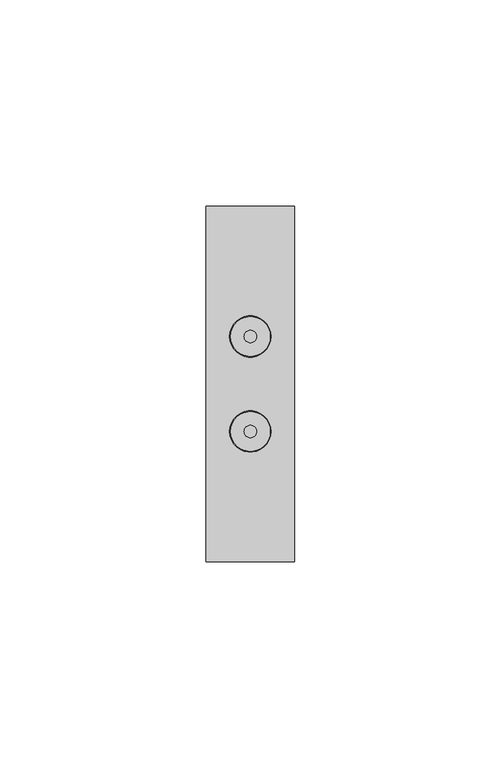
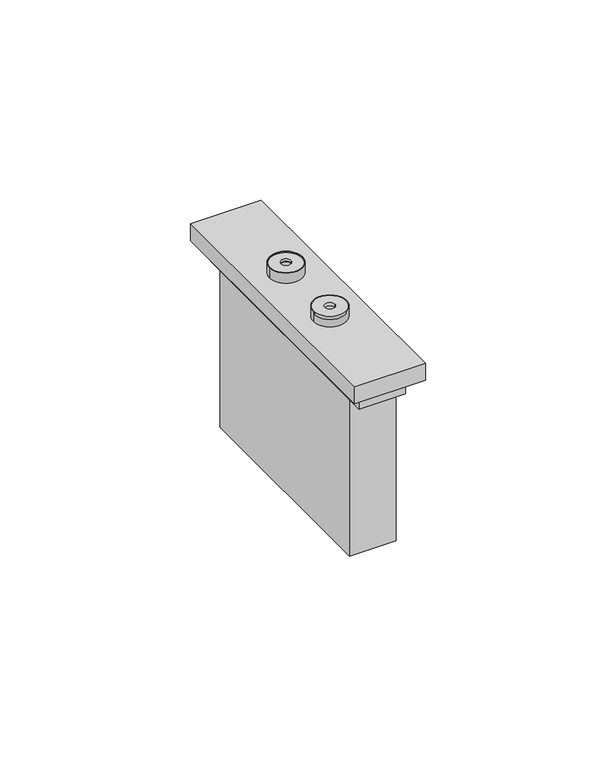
"""IFC4 building model written with IfcOpenShell, lengths in millimetres: proxy geometry, BT_LN-ConnettoriAudioVideo_ModuloDoppioRCA : ModuloDoppioRCA - Art. KW4269R - 1M - Cover Bianco."""

import ifcopenshell
import ifcopenshell.guid

model = None  # the IFC model being written
_history = None  # IfcOwnerHistory: only IFC2X3 demands one
_inside = {}  # id of a spatial element -> (the spatial element, [elements in it])
_under = {}  # id of a project, library or spatial element -> (it, [spatial elements below it])
_declared = {}  # id of a project -> (the project, [libraries it declares])
_typed = {}  # id of a type object -> (the type object, [elements of that type])
_made_of = {}  # id of a material, layer set ... -> (it, [elements and type objects made of it])


def new_model(schema):
    """Start an empty IFC model of exactly this schema.

    Asked for "IFC4X3", IfcOpenShell would pick the latest addendum, in which some entities
    have other attributes; the version numbers below select the first issue.
    IFC2X3 requires an IfcOwnerHistory on every rooted entity: one is made here for all.
    """
    global model, _history
    if schema == "IFC4X3":
        model = ifcopenshell.file(schema_version=(4, 3, 0, 0))
    else:
        model = ifcopenshell.file(schema=schema)
    _inside.clear()
    _under.clear()
    _declared.clear()
    _typed.clear()
    _made_of.clear()
    _history = None
    if model.schema == "IFC2X3":
        org = make("IfcOrganization", Name="unknown")
        user = make(
            "IfcPersonAndOrganization",
            ThePerson=make("IfcPerson", FamilyName="unknown"),
            TheOrganization=org,
        )
        app = make(
            "IfcApplication",
            ApplicationDeveloper=org,
            Version="unknown",
            ApplicationFullName="unknown",
            ApplicationIdentifier="unknown",
        )
        _history = make(
            "IfcOwnerHistory",
            OwningUser=user,
            OwningApplication=app,
            ChangeAction="ADDED",
            CreationDate=0,
        )
    return model


def make(cls, **values):
    """One entity of the class cls with the attributes given. An attribute that is None is left unset."""
    return model.create_entity(
        cls, **{name: value for name, value in values.items() if value is not None}
    )


def rooted(cls, **values):
    """An entity with a GlobalId (a new one), such as an element, a storey or a relation."""
    return make(cls, GlobalId=ifcopenshell.guid.new(), OwnerHistory=_history, **values)


def si_unit(unit_type, name, prefix=None):
    """IfcSIUnit, for example si_unit("LENGTHUNIT", "METRE", prefix="MILLI")."""
    return make("IfcSIUnit", UnitType=unit_type, Prefix=prefix, Name=name)


def assignment(units):
    """IfcUnitAssignment: the units of a project."""
    return None if units is None else make("IfcUnitAssignment", Units=units)


def point(xyz):
    """IfcCartesianPoint."""
    return None if xyz is None else make("IfcCartesianPoint", Coordinates=xyz)


def direction(xyz):
    """IfcDirection."""
    return None if xyz is None else make("IfcDirection", DirectionRatios=xyz)


def frame(location, z_axis=None, x_axis=None):
    """IfcAxis2Placement3D, a coordinate frame: its origin and axes. An axis left out is left unset."""
    return make(
        "IfcAxis2Placement3D",
        Location=point(location),
        Axis=direction(z_axis),
        RefDirection=direction(x_axis),
    )


def frame_2d(location, x_axis=None):
    """IfcAxis2Placement2D, a coordinate frame in the plane: its origin and x axis."""
    return make(
        "IfcAxis2Placement2D", Location=point(location), RefDirection=direction(x_axis)
    )


def origin():
    """The frame at (0, 0, 0) with its axes left unset."""
    return frame((0.0, 0.0, 0.0))


def origin_with_axes():
    """The frame at (0, 0, 0) with the z axis (0, 0, 1) and the x axis (1, 0, 0) written out."""
    return frame((0.0, 0.0, 0.0), z_axis=(0.0, 0.0, 1.0), x_axis=(1.0, 0.0, 0.0))


def place(relative_to, where):
    """IfcLocalPlacement: puts the frame where relative to a parent placement (None: the world)."""
    return make(
        "IfcLocalPlacement", PlacementRelTo=relative_to, RelativePlacement=where
    )


def context(
    kind, dimensions, precision=None, world=None, true_north=None, identifier=None
):
    """IfcGeometricRepresentationContext, for example the 3D "Model" context."""
    return make(
        "IfcGeometricRepresentationContext",
        ContextIdentifier=identifier,
        ContextType=kind,
        CoordinateSpaceDimension=dimensions,
        Precision=precision,
        WorldCoordinateSystem=world,
        TrueNorth=true_north,
    )


def project(units=None, contexts=None):
    """IfcProject with its units and contexts."""
    return rooted(
        "IfcProject",
        Name="project",
        RepresentationContexts=contexts,
        UnitsInContext=assignment(units),
    )


def spatial(cls, under=None, at=None, **own):
    """A site, building, storey or space (cls), placed at a placement, below another one or the project."""
    s = rooted(cls, ObjectPlacement=at, **own)
    if under is not None:
        _under.setdefault(under.id(), (under, []))[1].append(s)
    return s


def polyline(points):
    """IfcPolyline through the points."""
    return make("IfcPolyline", Points=[point(p) for p in points])


def circle_curve(where, radius):
    """IfcCircle in the frame where."""
    return make("IfcCircle", Position=where, Radius=radius)


def trimmed(basis, trim1, trim2, sense, master):
    """IfcTrimmedCurve: the piece of a basis curve between two trims."""
    return make(
        "IfcTrimmedCurve",
        BasisCurve=basis,
        Trim1=trim1,
        Trim2=trim2,
        SenseAgreement=sense,
        MasterRepresentation=master,
    )


def segment(curve, same_sense, transition):
    """IfcCompositeCurveSegment."""
    return make(
        "IfcCompositeCurveSegment",
        Transition=transition,
        SameSense=same_sense,
        ParentCurve=curve,
    )


def composite_curve(segments, self_intersect=None):
    """IfcCompositeCurve: segments joined end to end."""
    return make("IfcCompositeCurve", Segments=segments, SelfIntersect=self_intersect)


def outline(outer, holes=None, kind="AREA"):
    """IfcArbitraryClosedProfileDef: a profile drawn as a closed curve; with holes, ...WithVoids."""
    if holes is None:
        return make("IfcArbitraryClosedProfileDef", ProfileType=kind, OuterCurve=outer)
    return make(
        "IfcArbitraryProfileDefWithVoids",
        ProfileType=kind,
        OuterCurve=outer,
        InnerCurves=holes,
    )


def extrude(swept, where, along, depth):
    """IfcExtrudedAreaSolid: the profile swept, set in the frame where, extruded along a direction by depth."""
    return make(
        "IfcExtrudedAreaSolid",
        SweptArea=swept,
        Position=where,
        ExtrudedDirection=direction(along),
        Depth=depth,
    )


def shape(context_of_items, identifier, shape_type, items):
    """IfcShapeRepresentation: the items that make up one representation, for example the "Body"."""
    return make(
        "IfcShapeRepresentation",
        ContextOfItems=context_of_items,
        RepresentationIdentifier=identifier,
        RepresentationType=shape_type,
        Items=items,
    )


def source(mapping_origin, context_of_items, identifier, shape_type, items):
    """IfcRepresentationMap: a shape defined once, which mapped items show again and again."""
    return make(
        "IfcRepresentationMap",
        MappingOrigin=mapping_origin,
        MappedRepresentation=shape(context_of_items, identifier, shape_type, items),
    )


def transform(
    local_origin,
    x_axis=None,
    y_axis=None,
    z_axis=None,
    scale=None,
    scale2=None,
    scale3=None,
    uniform=True,
):
    """IfcCartesianTransformationOperator3D, or its non-uniform kind. x_axis, y_axis, z_axis: its Axis1, 2, 3."""
    if uniform:
        return make(
            "IfcCartesianTransformationOperator3D",
            Axis1=direction(x_axis),
            Axis2=direction(y_axis),
            LocalOrigin=point(local_origin),
            Scale=scale,
            Axis3=direction(z_axis),
        )
    return make(
        "IfcCartesianTransformationOperator3DnonUniform",
        Axis1=direction(x_axis),
        Axis2=direction(y_axis),
        LocalOrigin=point(local_origin),
        Scale=scale,
        Axis3=direction(z_axis),
        Scale2=scale2,
        Scale3=scale3,
    )


def mapped(mapping_source, mapping_target):
    """IfcMappedItem: shows the shape of a source again, moved by a transform."""
    return make(
        "IfcMappedItem", MappingSource=mapping_source, MappingTarget=mapping_target
    )


def made_of(thing, what):
    """Note that an element or type object is made of a material, layer set ...; save() writes the relation."""
    if what is not None:
        _made_of.setdefault(what.id(), (what, []))[1].append(thing)
    return thing


def element(
    cls,
    number,
    at=None,
    inside=None,
    cuts=None,
    type_object=None,
    material=None,
    context=None,
    identifier="Body",
    shape_type=None,
    held_by="IfcProductDefinitionShape",
    body=None,
    shapes=None,
    **own,
):
    """One element of the class cls, such as IfcWall. Its Tag is "e" and its number.

    at: its placement. inside: the storey or other place that contains it. cuts: it is an
    opening in that element (IfcRelVoidsElement). A single representation is given by context,
    identifier, shape_type and body (its items); several are given by shapes. held_by: the class
    of the entity that holds the representations. save() writes the other relations.
    """
    e = rooted(cls, Tag="e%d" % number, ObjectPlacement=at, **own)
    if body is not None:
        shapes = [shape(context, identifier, shape_type, body)]
    if shapes is not None:
        e.Representation = make(held_by, Representations=shapes)
    if inside is not None:
        _inside.setdefault(inside.id(), (inside, []))[1].append(e)
    if cuts is not None:
        rooted(
            "IfcRelVoidsElement", RelatingBuildingElement=cuts, RelatedOpeningElement=e
        )
    if type_object is not None:
        _typed.setdefault(type_object.id(), (type_object, []))[1].append(e)
    return made_of(e, material)


def aggregate(whole, parts):
    """IfcRelAggregates: a whole, such as a stair, and the parts it consists of."""
    return rooted("IfcRelAggregates", RelatingObject=whole, RelatedObjects=parts)


def save(model, path):
    """Write the relations noted so far, then the file.

    IfcRelAggregates (storeys below a building ...), IfcRelContainedInSpatialStructure (elements
    in a storey), IfcRelDefinesByType, IfcRelAssociatesMaterial and IfcRelDeclares: one each for
    every whole, place, type object, material and project.
    """
    for whole, parts in _under.values():
        aggregate(whole, parts)
    for where, things in _inside.values():
        rooted(
            "IfcRelContainedInSpatialStructure",
            RelatedElements=things,
            RelatingStructure=where,
        )
    for kind, things in _typed.values():
        rooted("IfcRelDefinesByType", RelatedObjects=things, RelatingType=kind)
    for what, things in _made_of.values():
        rooted("IfcRelAssociatesMaterial", RelatedObjects=things, RelatingMaterial=what)
    for by, libraries in _declared.values():
        rooted("IfcRelDeclares", RelatingContext=by, RelatedDefinitions=libraries)
    model.write(path)


def plane_surface(at):
    """IfcPlane: the flat surface through the origin of the frame at, square to its z axis."""
    return make("IfcPlane", Position=at)


def cylinder_surface(at, radius):
    """IfcCylindricalSurface: all points at the distance radius from the z axis of the frame at."""
    return make("IfcCylindricalSurface", Position=at, Radius=radius)


def revolved_surface(curve, axis_point, axis_direction):
    """IfcSurfaceOfRevolution: the curve turned about the line through axis_point along axis_direction."""
    return make(
        "IfcSurfaceOfRevolution",
        SweptCurve=make("IfcArbitraryOpenProfileDef", ProfileType="CURVE", Curve=curve),
        AxisPosition=make("IfcAxis1Placement", Location=point(axis_point), Axis=direction(axis_direction)),
    )


def advanced_brep(points, edges, surfaces, faces):
    """IfcAdvancedBrep: a solid bounded by faces that lie on surfaces and meet in shared edges.

    An edge is (start, end): straight between two places in points (the first is 0);
    or (start, end, curve); or (start, end, curve, False) where it runs against its curve.
    A face is (place in surfaces, loops), or (place, loops, False) where it looks against
    its surface's normal. A loop lists edges by number (the first is 1), with a minus sign
    where the edge is run from its end to its start. The first loop is the outer one.
    """
    corners = [point(p) for p in points]
    vertices = [make("IfcVertexPoint", VertexGeometry=c) for c in corners]
    made = []
    for start, end, *more in edges:
        made.append(
            make(
                "IfcEdgeCurve",
                EdgeStart=vertices[start],
                EdgeEnd=vertices[end],
                EdgeGeometry=more[0] if more else make("IfcPolyline", Points=[corners[start], corners[end]]),
                SameSense=more[1] if len(more) > 1 else True,
            )
        )
    hull = []
    for where, loops, *sense in faces:
        bounds = []
        for j, loop in enumerate(loops):
            ring = [make("IfcOrientedEdge", EdgeElement=made[abs(k) - 1], Orientation=k > 0) for k in loop]
            bounds.append(
                make(
                    "IfcFaceOuterBound" if j == 0 else "IfcFaceBound",
                    Bound=make("IfcEdgeLoop", EdgeList=ring),
                    Orientation=True,
                )
            )
        hull.append(make("IfcAdvancedFace", Bounds=bounds, FaceSurface=surfaces[where], SameSense=sense[0] if sense else True))
    return make("IfcAdvancedBrep", Outer=make("IfcClosedShell", CfsFaces=hull))


def communication_devices_85c52ba2(model_context):
    return source(origin(), model_context, "Body", "SolidModel", [
        extrude(outline(polyline([(-7.0, 39.0), (7.0, 39.0), (7.0, -39.0), (-7.0, -39.0), (-7.0, 39.0)]), holes=[composite_curve([segment(trimmed(circle_curve(frame_2d((0.0, 11.5)), 5.0), [point((-5.0, 11.5))], [point((5.0, 11.5))], True, "CARTESIAN"), True, "CONTINUOUS"), segment(trimmed(circle_curve(frame_2d((0.0, 11.5)), 5.0), [point((5.0, 11.5))], [point((-5.0, 11.5))], True, "CARTESIAN"), True, "CONTINUOUS")], self_intersect=False), composite_curve([segment(trimmed(circle_curve(frame_2d((0.0, -11.5)), 5.0), [point((-5.0, -11.5))], [point((5.0, -11.5))], True, "CARTESIAN"), True, "CONTINUOUS"), segment(trimmed(circle_curve(frame_2d((0.0, -11.5)), 5.0), [point((5.0, -11.5))], [point((-5.0, -11.5))], True, "CARTESIAN"), True, "CONTINUOUS")], self_intersect=False)]), frame((0.0, 0.0, 50.0), z_axis=(0.0, 0.0, 1.0), x_axis=(1.0, 0.0, 0.0)), (0.0, 0.0, 1.0), 5.5),
        extrude(outline(polyline([(-7.0, 34.0), (7.0, 34.0), (7.0, -34.0), (-7.0, -34.0), (-7.0, 34.0)])), origin_with_axes(), (0.0, 0.0, 1.0), 50.0),
        extrude(outline(composite_curve([segment(trimmed(circle_curve(frame_2d((0.0, -11.5)), 4.8), [point((4.8, -11.5))], [point((-4.8, -11.5))], False, "CARTESIAN"), True, "CONTINUOUS"), segment(trimmed(circle_curve(frame_2d((0.0, -11.5)), 4.8), [point((-4.8, -11.5))], [point((4.8, -11.5))], False, "CARTESIAN"), True, "CONTINUOUS")], self_intersect=False), holes=[composite_curve([segment(trimmed(circle_curve(frame_2d((0.0, -11.5)), 1.5), [point((1.5, -11.5))], [point((-1.5, -11.5))], True, "CARTESIAN"), True, "CONTINUOUS"), segment(trimmed(circle_curve(frame_2d((0.0, -11.5)), 1.5), [point((-1.5, -11.5))], [point((1.5, -11.5))], True, "CARTESIAN"), True, "CONTINUOUS")], self_intersect=False)]), frame((0.0, 0.0, 63.0), z_axis=(0.0, 0.0, 1.0), x_axis=(1.0, 0.0, 0.0)), (0.0, 0.0, 1.0), 1.0),
        advanced_brep(
        [(5.0, 11.5, 64.0), (-5.0, 11.5, 64.0), (-4.8, 11.5, 64.0), (4.8, 11.5, 64.0), (5.0, 11.5, 50.0), (-5.0, 11.5, 50.0), (1.5, 11.5, 50.0), (-1.5, 11.5, 50.0), (-1.5, 11.5, 63.0), (1.5, 11.5, 63.0), (4.8, 11.5, 63.0), (-4.8, 11.5, 63.0)],
        [
            (0, 1, circle_curve(frame((0.0, 11.5, 64.0), z_axis=(0.0, 0.0, 1.0), x_axis=(-1.0, 0.0, 0.0)), 5.0)),
            (1, 0, circle_curve(frame((0.0, 11.5, 64.0), z_axis=(0.0, 0.0, 1.0), x_axis=(-1.0, 0.0, 0.0)), 5.0)),
            (2, 3, circle_curve(frame((0.0, 11.5, 64.0), z_axis=(0.0, 0.0, -1.0), x_axis=(-1.0, 0.0, 0.0)), 4.8)),
            (3, 2, circle_curve(frame((0.0, 11.5, 64.0), z_axis=(0.0, 0.0, -1.0), x_axis=(-1.0, 0.0, 0.0)), 4.8)),
            (4, 5, circle_curve(frame((0.0, 11.5, 50.0), z_axis=(0.0, 0.0, -1.0), x_axis=(-1.0, 0.0, 0.0)), 5.0)),
            (5, 4, circle_curve(frame((0.0, 11.5, 50.0), z_axis=(0.0, 0.0, -1.0), x_axis=(-1.0, 0.0, 0.0)), 5.0)),
            (6, 7, circle_curve(frame((0.0, 11.5, 50.0), z_axis=(0.0, 0.0, 1.0), x_axis=(-1.0, 0.0, 0.0)), 1.5)),
            (7, 6, circle_curve(frame((0.0, 11.5, 50.0), z_axis=(0.0, 0.0, 1.0), x_axis=(-1.0, 0.0, 0.0)), 1.5)),
            (0, 4),
            (5, 1),
            (7, 8),
            (8, 9, circle_curve(frame((0.0, 11.5, 63.0), z_axis=(0.0, 0.0, 1.0), x_axis=(-1.0, 0.0, 0.0)), 1.5)),
            (9, 6),
            (9, 8, circle_curve(frame((0.0, 11.5, 63.0), z_axis=(0.0, 0.0, 1.0), x_axis=(-1.0, 0.0, 0.0)), 1.5)),
            (10, 11, circle_curve(frame((0.0, 11.5, 63.0), z_axis=(0.0, 0.0, 1.0), x_axis=(-1.0, 0.0, 0.0)), 4.8)),
            (11, 10, circle_curve(frame((0.0, 11.5, 63.0), z_axis=(0.0, 0.0, 1.0), x_axis=(-1.0, 0.0, 0.0)), 4.8)),
            (10, 3),
            (2, 11),
        ],
        [
            plane_surface(frame((-5.0, 11.5, 64.0), z_axis=(0.0, 0.0, 1.0), x_axis=(0.0, -1.0, 0.0))),
            plane_surface(frame((-5.0, 11.5, 50.0), z_axis=(0.0, 0.0, -1.0), x_axis=(0.0, 1.0, 0.0))),
            cylinder_surface(frame((0.0, 11.5, 50.0), z_axis=(0.0, 0.0, 1.0), x_axis=(-1.0, 0.0, 0.0)), 5.0),
            revolved_surface(polyline([(-1.5, 11.5, 50.0), (-1.5, 11.5, 63.0)]), (0.0, 11.5, 61.0), (0.0, 0.0, -1.0)),
            plane_surface(frame((-1.5, -11.5, 63.0), z_axis=(0.0, 0.0, 1.0), x_axis=(0.0, -1.0, 0.0))),
            revolved_surface(polyline([(-4.8, 11.5, 64.0), (-4.8, 11.5, 63.0)]), (0.0, 11.5, 61.0), (0.0, 0.0, 1.0)),
        ],
        [
            (0, [[1, 2], [3, 4]]),
            (1, [[5, 6], [7, 8]]),
            (2, [[-1, 9, -6, 10]]),
            (2, [[-2, -10, -5, -9]]),
            (3, [[-8, 11, 12, 13]]),
            (3, [[-7, -13, 14, -11]]),
            (4, [[15, 16], [-12, -14]]),
            (5, [[-15, 17, -3, 18]]),
            (5, [[-16, -18, -4, -17]]),
        ],
    ),
        advanced_brep(
        [(5.0, -11.5, 64.0), (-5.0, -11.5, 64.0), (-4.8, -11.5, 64.0), (4.8, -11.5, 64.0), (5.0, -11.5, 50.0), (-5.0, -11.5, 50.0), (1.5, -11.5, 50.0), (-1.5, -11.5, 50.0), (1.5, -11.5, 63.0), (-1.5, -11.5, 63.0), (4.8, -11.5, 63.0), (-4.8, -11.5, 63.0)],
        [
            (0, 1, circle_curve(frame((0.0, -11.5, 64.0), z_axis=(0.0, 0.0, 1.0), x_axis=(-1.0, 0.0, 0.0)), 5.0)),
            (1, 0, circle_curve(frame((0.0, -11.5, 64.0), z_axis=(0.0, 0.0, 1.0), x_axis=(-1.0, 0.0, 0.0)), 5.0)),
            (2, 3, circle_curve(frame((0.0, -11.5, 64.0), z_axis=(0.0, 0.0, -1.0), x_axis=(-1.0, 0.0, 0.0)), 4.8)),
            (3, 2, circle_curve(frame((0.0, -11.5, 64.0), z_axis=(0.0, 0.0, -1.0), x_axis=(-1.0, 0.0, 0.0)), 4.8)),
            (4, 5, circle_curve(frame((0.0, -11.5, 50.0), z_axis=(0.0, 0.0, -1.0), x_axis=(-1.0, 0.0, 0.0)), 5.0)),
            (5, 4, circle_curve(frame((0.0, -11.5, 50.0), z_axis=(0.0, 0.0, -1.0), x_axis=(-1.0, 0.0, 0.0)), 5.0)),
            (6, 7, circle_curve(frame((0.0, -11.5, 50.0), z_axis=(0.0, 0.0, 1.0), x_axis=(-1.0, 0.0, 0.0)), 1.5)),
            (7, 6, circle_curve(frame((0.0, -11.5, 50.0), z_axis=(0.0, 0.0, 1.0), x_axis=(-1.0, 0.0, 0.0)), 1.5)),
            (0, 4),
            (5, 1),
            (6, 8),
            (8, 9, circle_curve(frame((0.0, -11.5, 63.0), z_axis=(0.0, 0.0, 1.0), x_axis=(-1.0, 0.0, 0.0)), 1.5)),
            (9, 7),
            (9, 8, circle_curve(frame((0.0, -11.5, 63.0), z_axis=(0.0, 0.0, 1.0), x_axis=(-1.0, 0.0, 0.0)), 1.5)),
            (10, 11, circle_curve(frame((0.0, -11.5, 63.0), z_axis=(0.0, 0.0, 1.0), x_axis=(-1.0, 0.0, 0.0)), 4.8)),
            (11, 10, circle_curve(frame((0.0, -11.5, 63.0), z_axis=(0.0, 0.0, 1.0), x_axis=(-1.0, 0.0, 0.0)), 4.8)),
            (10, 3),
            (2, 11),
        ],
        [
            plane_surface(frame((-5.0, -11.5, 64.0), z_axis=(0.0, 0.0, 1.0), x_axis=(0.0, -1.0, 0.0))),
            plane_surface(frame((-5.0, -11.5, 50.0), z_axis=(0.0, 0.0, -1.0), x_axis=(0.0, 1.0, 0.0))),
            cylinder_surface(frame((0.0, -11.5, 50.0), z_axis=(0.0, 0.0, 1.0), x_axis=(-1.0, 0.0, 0.0)), 5.0),
            revolved_surface(polyline([(-1.5, -11.5, 50.0), (-1.5, -11.5, 63.0)]), (0.0, -11.5, 61.0), (0.0, 0.0, -1.0)),
            plane_surface(frame((-1.5, -11.5, 63.0), z_axis=(0.0, 0.0, 1.0), x_axis=(0.0, -1.0, 0.0))),
            revolved_surface(polyline([(-4.8, -11.5, 64.0), (-4.8, -11.5, 63.0)]), (0.0, -11.5, 61.0), (0.0, 0.0, 1.0)),
        ],
        [
            (0, [[1, 2], [3, 4]]),
            (1, [[5, 6], [7, 8]]),
            (2, [[-1, 9, -6, 10]]),
            (2, [[-2, -10, -5, -9]]),
            (3, [[-7, 11, 12, 13]]),
            (3, [[-8, -13, 14, -11]]),
            (4, [[15, 16], [-12, -14]]),
            (5, [[-15, 17, -3, 18]]),
            (5, [[-16, -18, -4, -17]]),
        ],
    ),
        extrude(outline(composite_curve([segment(trimmed(circle_curve(frame_2d((0.0, 11.5)), 4.8), [point((-4.8, 11.5))], [point((4.8, 11.5))], False, "CARTESIAN"), True, "CONTINUOUS"), segment(trimmed(circle_curve(frame_2d((0.0, 11.5)), 4.8), [point((4.8, 11.5))], [point((-4.8, 11.5))], False, "CARTESIAN"), True, "CONTINUOUS")], self_intersect=False), holes=[composite_curve([segment(trimmed(circle_curve(frame_2d((0.0, 11.5)), 1.5), [point((-1.5, 11.5))], [point((1.5, 11.5))], True, "CARTESIAN"), True, "CONTINUOUS"), segment(trimmed(circle_curve(frame_2d((0.0, 11.5)), 1.5), [point((1.5, 11.5))], [point((-1.5, 11.5))], True, "CARTESIAN"), True, "CONTINUOUS")], self_intersect=False)]), frame((0.0, 0.0, 63.0), z_axis=(0.0, 0.0, 1.0), x_axis=(1.0, 0.0, 0.0)), (0.0, 0.0, 1.0), 1.0),
        extrude(outline(polyline([(-10.7, -43.0), (-10.7, 43.0), (10.7, 43.0), (10.7, -43.0), (-10.7, -43.0)]), holes=[composite_curve([segment(trimmed(circle_curve(frame_2d((0.0, 11.5)), 5.0), [point((5.0, 11.5))], [point((-5.0, 11.5))], True, "CARTESIAN"), True, "CONTINUOUS"), segment(trimmed(circle_curve(frame_2d((0.0, 11.5)), 5.0), [point((-5.0, 11.5))], [point((5.0, 11.5))], True, "CARTESIAN"), True, "CONTINUOUS")], self_intersect=False), composite_curve([segment(trimmed(circle_curve(frame_2d((0.0, -11.5)), 5.0), [point((5.0, -11.5))], [point((-5.0, -11.5))], True, "CARTESIAN"), True, "CONTINUOUS"), segment(trimmed(circle_curve(frame_2d((0.0, -11.5)), 5.0), [point((-5.0, -11.5))], [point((5.0, -11.5))], True, "CARTESIAN"), True, "CONTINUOUS")], self_intersect=False)]), frame((0.0, 0.0, 55.5), z_axis=(0.0, 0.0, 1.0), x_axis=(1.0, 0.0, 0.0)), (0.0, 0.0, 1.0), 5.5),
    ])


if __name__ == "__main__":
    model = new_model("IFC4")
    model_context = context("Model", 3, world=origin())
    ifc_project = project(units=[si_unit("LENGTHUNIT", "METRE", prefix="MILLI")], contexts=[model_context])
    site = spatial("IfcSite", under=ifc_project)
    building = spatial("IfcBuilding", under=site)
    placement = place(None, origin())
    communication_devices_shape = communication_devices_85c52ba2(model_context)
    element("IfcBuildingElementProxy", 1, Name="BT_LN-ConnettoriAudioVideo_ModuloDoppioRCA : ModuloDoppioRCA - Art. KW4269R - 1M - Cover Bianco", ObjectType="BT_LN-ConnettoriAudioVideo_ModuloDoppioRCA : ModuloDoppioRCA - Art. KW4269R - 1M - Cover Bianco", at=placement, inside=building, context=model_context, shape_type="MappedRepresentation", body=[
        mapped(communication_devices_shape, transform((0.0, 0.0, 0.0), x_axis=(1.0, 0.0, 0.0), y_axis=(0.0, 1.0, 0.0), z_axis=(0.0, 0.0, 1.0))),
    ])
    save(model, "model.ifc")
